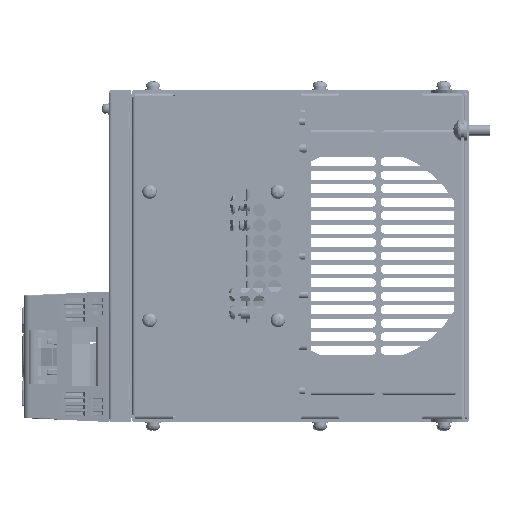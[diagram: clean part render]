
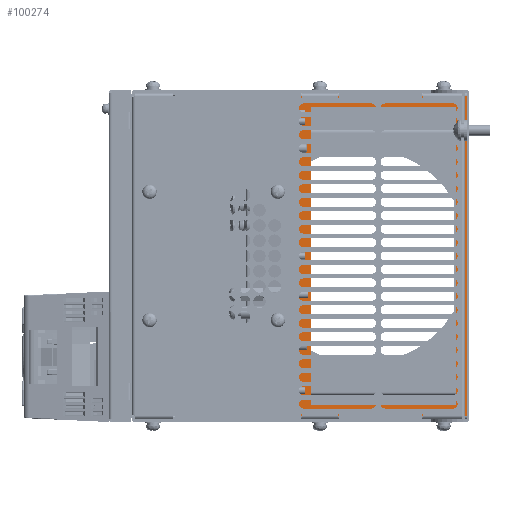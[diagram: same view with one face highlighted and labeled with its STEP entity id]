
A CAD part, left-side view. The second image highlights one B-rep face of the part: STEP entity #100274.
In plain terms, the highlighted planar face has unit normal (-1, 0, 0) as drawn and (0, 0, -1) by its records, which use the part's own axes.
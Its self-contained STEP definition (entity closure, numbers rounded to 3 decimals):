
#2773 = LINE ( 'NONE', #85433, #186530 ) ;
#10780 = CARTESIAN_POINT ( 'NONE',  ( -83., -41.25, -1.5 ) ) ;
#11154 = CARTESIAN_POINT ( 'NONE',  ( 83., 39.25, -1.5 ) ) ;
#15124 = EDGE_LOOP ( 'NONE', ( #79522, #270939, #148015, #172622 ) ) ;
#17379 = ORIENTED_EDGE ( 'NONE', *, *, #43107, .T. ) ;
#25912 = CARTESIAN_POINT ( 'NONE',  ( -89.3, -47.25, -1.5 ) ) ;
#31995 = PLANE ( 'NONE',  #86521 ) ;
#32255 = EDGE_CURVE ( 'NONE', #127907, #107789, #180755, .T. ) ;
#43107 = EDGE_CURVE ( 'NONE', #204319, #101812, #49566, .T. ) ;
#48020 = ORIENTED_EDGE ( 'NONE', *, *, #117969, .T. ) ;
#49566 = LINE ( 'NONE', #187888, #289418 ) ;
#53134 = VECTOR ( 'NONE', #61865, 1000. ) ;
#60674 = CARTESIAN_POINT ( 'NONE',  ( -89.3, 47.25, -1.5 ) ) ;
#61865 = DIRECTION ( 'NONE',  ( 0., 1., 0. ) ) ;
#75632 = EDGE_CURVE ( 'NONE', #204319, #262994, #213616, .T. ) ;
#79522 = ORIENTED_EDGE ( 'NONE', *, *, #80910, .T. ) ;
#80174 = DIRECTION ( 'NONE',  ( 0., 0., -1. ) ) ;
#80910 = EDGE_CURVE ( 'NONE', #291756, #107789, #167749, .T. ) ;
#81519 = CARTESIAN_POINT ( 'NONE',  ( -83., 39.25, -1.5 ) ) ;
#85008 = CARTESIAN_POINT ( 'NONE',  ( 89.3, -47.25, -1.5 ) ) ;
#85433 = CARTESIAN_POINT ( 'NONE',  ( 91., -47.25, -1.5 ) ) ;
#86521 = AXIS2_PLACEMENT_3D ( 'NONE', #148350, #80174, #247849 ) ;
#89300 = VECTOR ( 'NONE', #173825, 1000. ) ;
#96787 = LINE ( 'NONE', #222011, #89300 ) ;
#100274 = ADVANCED_FACE ( 'NONE', ( #275141, #147626 ), #31995, .T. ) ;
#101812 = VERTEX_POINT ( 'NONE', #85008 ) ;
#107789 = VERTEX_POINT ( 'NONE', #81519 ) ;
#117969 = EDGE_CURVE ( 'NONE', #129754, #262994, #142956, .T. ) ;
#119022 = CARTESIAN_POINT ( 'NONE',  ( 83., -41.25, -1.5 ) ) ;
#127907 = VERTEX_POINT ( 'NONE', #10780 ) ;
#129754 = VERTEX_POINT ( 'NONE', #280549 ) ;
#132087 = CARTESIAN_POINT ( 'NONE',  ( -83., 47.25, -1.5 ) ) ;
#142956 = LINE ( 'NONE', #25912, #304090 ) ;
#147626 = FACE_BOUND ( 'NONE', #15124, .T. ) ;
#148015 = ORIENTED_EDGE ( 'NONE', *, *, #204143, .F. ) ;
#148350 = CARTESIAN_POINT ( 'NONE',  ( 0., 0., -1.5 ) ) ;
#149914 = VECTOR ( 'NONE', #192575, 1000. ) ;
#155485 = LINE ( 'NONE', #195929, #275380 ) ;
#161550 = EDGE_CURVE ( 'NONE', #291756, #226889, #155485, .T. ) ;
#167749 = LINE ( 'NONE', #297321, #223920 ) ;
#169511 = EDGE_LOOP ( 'NONE', ( #297115, #17379, #263990, #48020 ) ) ;
#172622 = ORIENTED_EDGE ( 'NONE', *, *, #161550, .F. ) ;
#173825 = DIRECTION ( 'NONE',  ( -1., 0., 0. ) ) ;
#180755 = LINE ( 'NONE', #132087, #53134 ) ;
#186530 = VECTOR ( 'NONE', #204865, 1000. ) ;
#187888 = CARTESIAN_POINT ( 'NONE',  ( 89.3, 47.25, -1.5 ) ) ;
#192575 = DIRECTION ( 'NONE',  ( -1., 0., 0. ) ) ;
#195929 = CARTESIAN_POINT ( 'NONE',  ( 83., -41.25, -1.5 ) ) ;
#204143 = EDGE_CURVE ( 'NONE', #226889, #127907, #96787, .T. ) ;
#204319 = VERTEX_POINT ( 'NONE', #309558 ) ;
#204865 = DIRECTION ( 'NONE',  ( 1., 0., 0. ) ) ;
#211953 = DIRECTION ( 'NONE',  ( 0., -1., 0. ) ) ;
#213616 = LINE ( 'NONE', #263812, #149914 ) ;
#220033 = DIRECTION ( 'NONE',  ( 0., -1., 0. ) ) ;
#222011 = CARTESIAN_POINT ( 'NONE',  ( -83., -41.25, -1.5 ) ) ;
#223920 = VECTOR ( 'NONE', #274298, 1000. ) ;
#226889 = VERTEX_POINT ( 'NONE', #119022 ) ;
#231036 = EDGE_CURVE ( 'NONE', #129754, #101812, #2773, .T. ) ;
#241749 = DIRECTION ( 'NONE',  ( 0., 1., 0. ) ) ;
#247849 = DIRECTION ( 'NONE',  ( -1., 0., 0. ) ) ;
#262994 = VERTEX_POINT ( 'NONE', #60674 ) ;
#263812 = CARTESIAN_POINT ( 'NONE',  ( -83., 47.25, -1.5 ) ) ;
#263990 = ORIENTED_EDGE ( 'NONE', *, *, #231036, .F. ) ;
#270939 = ORIENTED_EDGE ( 'NONE', *, *, #32255, .F. ) ;
#274298 = DIRECTION ( 'NONE',  ( -1., 0., 0. ) ) ;
#275141 = FACE_OUTER_BOUND ( 'NONE', #169511, .T. ) ;
#275380 = VECTOR ( 'NONE', #220033, 1000. ) ;
#280549 = CARTESIAN_POINT ( 'NONE',  ( -89.3, -47.25, -1.5 ) ) ;
#289418 = VECTOR ( 'NONE', #211953, 1000. ) ;
#291756 = VERTEX_POINT ( 'NONE', #11154 ) ;
#297115 = ORIENTED_EDGE ( 'NONE', *, *, #75632, .F. ) ;
#297321 = CARTESIAN_POINT ( 'NONE',  ( 83., 39.25, -1.5 ) ) ;
#304090 = VECTOR ( 'NONE', #241749, 1000. ) ;
#309558 = CARTESIAN_POINT ( 'NONE',  ( 89.3, 47.25, -1.5 ) ) ;
